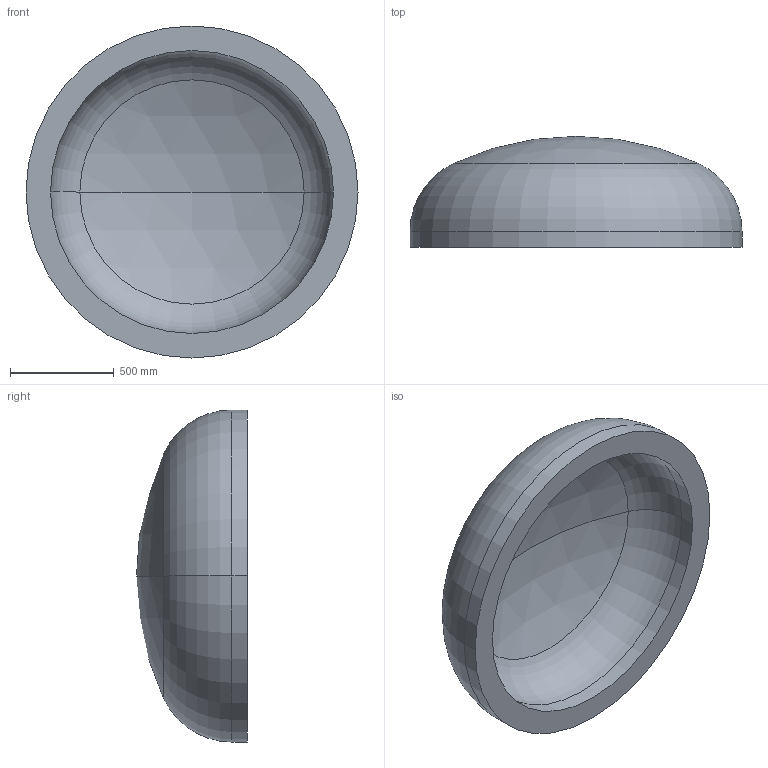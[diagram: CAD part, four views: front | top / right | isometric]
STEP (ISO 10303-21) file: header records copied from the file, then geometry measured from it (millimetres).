
FILE_DESCRIPTION (( 'STEP AP203' ), '1' );
FILE_NAME ('DIN 28013 Korbbogenform_-_Boden DIN 28013 - 1600 x 75 - I - s=118.step', '2016-07-01T11:33:10', ( '' ), ( '' ), 'SwSTEP 2.0', 'SolidWorks 2013', '' );
FILE_SCHEMA (( 'CONFIG_CONTROL_DESIGN' ));
Length unit declared in the file: millimetre
Products named in the file (1): DIN 28013 Korbbogenform_-_Boden DIN 28013 - 1600 x 75 - I - s=118
Bounding box: 1600 x 534.78 x 1600 mm (x, y, z)
Volume: 340258542 mm3; surface area: 6345644.1 mm2
Topology: 1 solids, 1 shells, 13 faces, 24 edges, 14 vertices
Faces by surface type: torus 4, cylinder 4, sphere 4, plane 1
Entity records: 407 total; most frequent: DIRECTION 72, CARTESIAN_POINT 52, ORIENTED_EDGE 48, AXIS2_PLACEMENT_3D 34, EDGE_CURVE 24, CIRCLE 20, VERTEX_POINT 14, EDGE_LOOP 14
